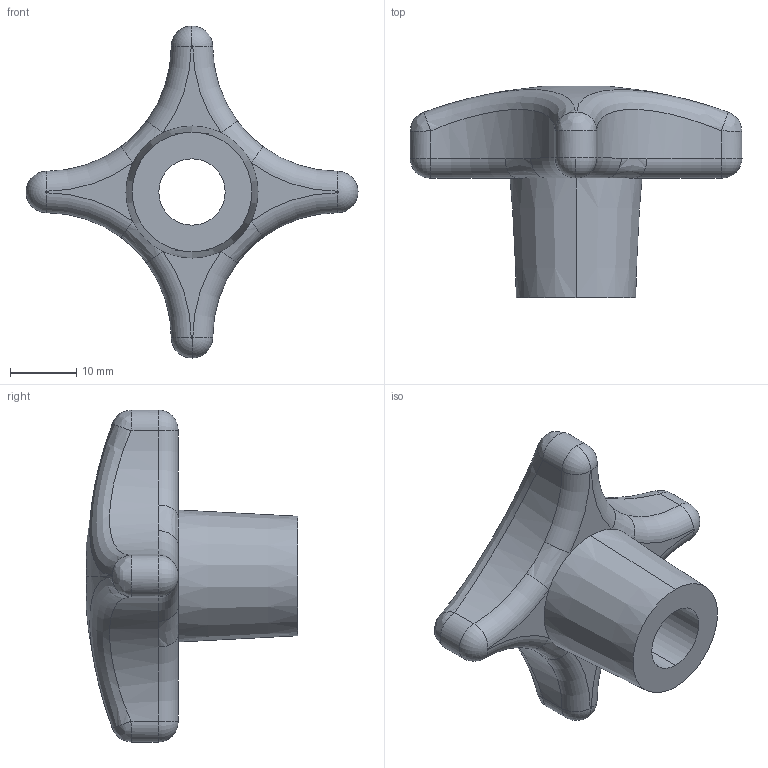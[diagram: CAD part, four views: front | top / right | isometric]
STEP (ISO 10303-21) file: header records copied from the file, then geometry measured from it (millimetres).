
FILE_DESCRIPTION (( 'STEP AP203' ), '1' );
FILE_NAME ('7000.W150.step', '2010-01-29T17:35:21', ( 'Wixroyd' ), ( 'Wixroyd' ), 'SwSTEP 2.0', 'SolidWorks 2009', '' );
FILE_SCHEMA (( 'CONFIG_CONTROL_DESIGN' ));
Length unit declared in the file: millimetre
Products named in the file (1): 7000.W150
Bounding box: 50 x 31.81 x 50 mm (x, y, z)
Volume: 13004.1 mm3; surface area: 5046.2 mm2
Topology: 1 solids, 1 shells, 46 faces, 110 edges, 65 vertices
Faces by surface type: torus 14, bspline 12, cylinder 11, plane 5, cone 2, sphere 2
Entity records: 7490 total; most frequent: CARTESIAN_POINT 6365, DIRECTION 231, ORIENTED_EDGE 220, EDGE_CURVE 110, AXIS2_PLACEMENT_3D 109, CIRCLE 74, VERTEX_POINT 65, EDGE_LOOP 47
